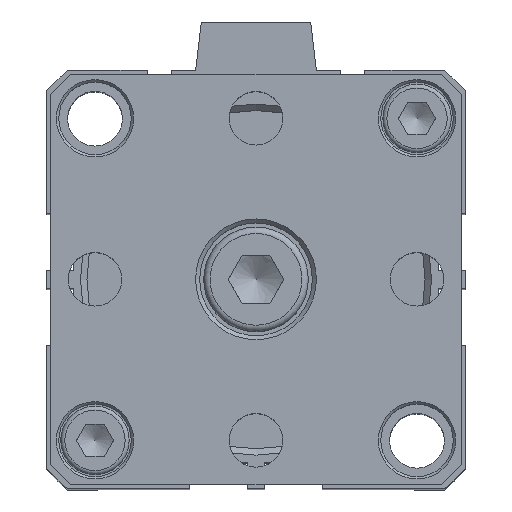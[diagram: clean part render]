
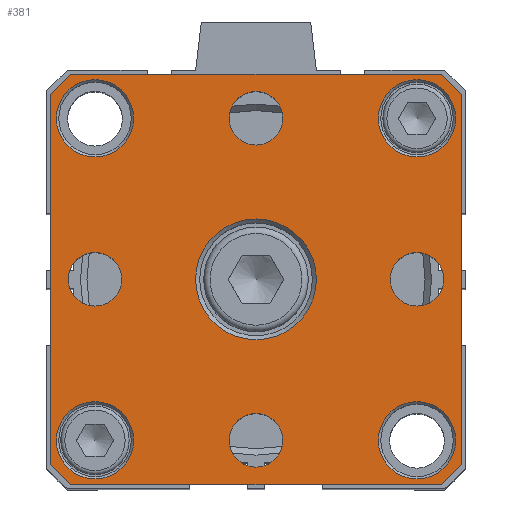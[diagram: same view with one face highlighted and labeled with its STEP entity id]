
A CAD part, top view. The second image highlights one B-rep face of the part: STEP entity #381.
In plain terms, the highlighted planar face has unit normal (0, 0, 1).
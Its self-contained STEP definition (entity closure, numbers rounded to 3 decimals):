
#207=CARTESIAN_POINT('',(25.398,21.555,96.1));
#208=VERTEX_POINT('',#207);
#209=CARTESIAN_POINT('',(20.598,21.555,96.1));
#210=DIRECTION('',(0.0,0.0,1.0));
#211=DIRECTION('',(-1.0,0.0,0.0));
#212=AXIS2_PLACEMENT_3D('',#209,#210,#211);
#213=CIRCLE('',#212,4.8);
#214=EDGE_CURVE('',#208,#208,#213,.T.);
#219=CARTESIAN_POINT('',(0.598,1.555,96.1));
#220=DIRECTION('',(0.0,0.0,1.0));
#221=DIRECTION('',(1.0,0.0,0.0));
#222=AXIS2_PLACEMENT_3D('',#219,#220,#221);
#223=PLANE('',#222);
#224=CARTESIAN_POINT('',(-24.902,24.555,96.1));
#225=VERTEX_POINT('',#224);
#226=CARTESIAN_POINT('',(-22.402,27.055,96.1));
#227=VERTEX_POINT('',#226);
#228=CARTESIAN_POINT('',(-24.902,24.555,96.1));
#229=DIRECTION('',(0.707,0.707,0.0));
#230=VECTOR('',#229,3.536);
#231=LINE('',#228,#230);
#232=EDGE_CURVE('',#225,#227,#231,.T.);
#233=ORIENTED_EDGE('',*,*,#232,.F.);
#234=CARTESIAN_POINT('',(-24.902,-21.445,96.1));
#235=VERTEX_POINT('',#234);
#236=CARTESIAN_POINT('',(-24.902,-21.445,96.1));
#237=DIRECTION('',(0.0,1.0,0.0));
#238=VECTOR('',#237,46.);
#239=LINE('',#236,#238);
#240=EDGE_CURVE('',#235,#225,#239,.T.);
#241=ORIENTED_EDGE('',*,*,#240,.F.);
#242=CARTESIAN_POINT('',(-22.402,-23.945,96.1));
#243=VERTEX_POINT('',#242);
#244=CARTESIAN_POINT('',(-22.402,-23.945,96.1));
#245=DIRECTION('',(-0.707,0.707,0.0));
#246=VECTOR('',#245,3.536);
#247=LINE('',#244,#246);
#248=EDGE_CURVE('',#243,#235,#247,.T.);
#249=ORIENTED_EDGE('',*,*,#248,.F.);
#250=CARTESIAN_POINT('',(23.598,-23.945,96.1));
#251=VERTEX_POINT('',#250);
#252=CARTESIAN_POINT('',(23.598,-23.945,96.1));
#253=DIRECTION('',(-1.0,0.0,0.0));
#254=VECTOR('',#253,46.);
#255=LINE('',#252,#254);
#256=EDGE_CURVE('',#251,#243,#255,.T.);
#257=ORIENTED_EDGE('',*,*,#256,.F.);
#258=CARTESIAN_POINT('',(26.098,-21.445,96.1));
#259=VERTEX_POINT('',#258);
#260=CARTESIAN_POINT('',(26.098,-21.445,96.1));
#261=DIRECTION('',(-0.707,-0.707,0.0));
#262=VECTOR('',#261,3.536);
#263=LINE('',#260,#262);
#264=EDGE_CURVE('',#259,#251,#263,.T.);
#265=ORIENTED_EDGE('',*,*,#264,.F.);
#266=CARTESIAN_POINT('',(26.098,24.555,96.1));
#267=VERTEX_POINT('',#266);
#268=CARTESIAN_POINT('',(26.098,24.555,96.1));
#269=DIRECTION('',(0.0,-1.0,0.0));
#270=VECTOR('',#269,46.);
#271=LINE('',#268,#270);
#272=EDGE_CURVE('',#267,#259,#271,.T.);
#273=ORIENTED_EDGE('',*,*,#272,.F.);
#274=CARTESIAN_POINT('',(23.598,27.055,96.1));
#275=VERTEX_POINT('',#274);
#276=CARTESIAN_POINT('',(23.598,27.055,96.1));
#277=DIRECTION('',(0.707,-0.707,0.0));
#278=VECTOR('',#277,3.536);
#279=LINE('',#276,#278);
#280=EDGE_CURVE('',#275,#267,#279,.T.);
#281=ORIENTED_EDGE('',*,*,#280,.F.);
#282=CARTESIAN_POINT('',(-22.402,27.055,96.1));
#283=DIRECTION('',(1.0,0.0,0.0));
#284=VECTOR('',#283,46.);
#285=LINE('',#282,#284);
#286=EDGE_CURVE('',#227,#275,#285,.T.);
#287=ORIENTED_EDGE('',*,*,#286,.F.);
#288=EDGE_LOOP('',(#233,#241,#249,#257,#265,#273,#281,#287));
#289=FACE_OUTER_BOUND('',#288,.T.);
#290=CARTESIAN_POINT('',(25.398,-18.445,96.1));
#291=VERTEX_POINT('',#290);
#292=CARTESIAN_POINT('',(20.598,-18.445,96.1));
#293=DIRECTION('',(0.0,0.0,1.0));
#294=DIRECTION('',(-1.0,0.0,0.0));
#295=AXIS2_PLACEMENT_3D('',#292,#293,#294);
#296=CIRCLE('',#295,4.8);
#297=EDGE_CURVE('',#291,#291,#296,.T.);
#298=ORIENTED_EDGE('',*,*,#297,.F.);
#299=EDGE_LOOP('',(#298));
#300=FACE_BOUND('',#299,.T.);
#301=CARTESIAN_POINT('',(-14.602,21.555,96.1));
#302=VERTEX_POINT('',#301);
#303=CARTESIAN_POINT('',(-19.402,21.555,96.1));
#304=DIRECTION('',(0.0,0.0,1.0));
#305=DIRECTION('',(-1.0,0.0,0.0));
#306=AXIS2_PLACEMENT_3D('',#303,#304,#305);
#307=CIRCLE('',#306,4.8);
#308=EDGE_CURVE('',#302,#302,#307,.T.);
#309=ORIENTED_EDGE('',*,*,#308,.F.);
#310=EDGE_LOOP('',(#309));
#311=FACE_BOUND('',#310,.T.);
#312=CARTESIAN_POINT('',(3.922,21.555,96.1));
#313=VERTEX_POINT('',#312);
#314=CARTESIAN_POINT('',(0.598,21.555,96.1));
#315=DIRECTION('',(0.0,0.0,-1.0));
#316=DIRECTION('',(1.0,0.0,0.0));
#317=AXIS2_PLACEMENT_3D('',#314,#315,#316);
#318=CIRCLE('',#317,3.324);
#319=EDGE_CURVE('',#313,#313,#318,.T.);
#320=ORIENTED_EDGE('',*,*,#319,.T.);
#321=EDGE_LOOP('',(#320));
#322=FACE_BOUND('',#321,.T.);
#323=CARTESIAN_POINT('',(-16.078,1.555,96.1));
#324=VERTEX_POINT('',#323);
#325=CARTESIAN_POINT('',(-19.402,1.555,96.1));
#326=DIRECTION('',(0.0,0.0,-1.0));
#327=DIRECTION('',(1.0,0.0,0.0));
#328=AXIS2_PLACEMENT_3D('',#325,#326,#327);
#329=CIRCLE('',#328,3.324);
#330=EDGE_CURVE('',#324,#324,#329,.T.);
#331=ORIENTED_EDGE('',*,*,#330,.T.);
#332=EDGE_LOOP('',(#331));
#333=FACE_BOUND('',#332,.T.);
#334=CARTESIAN_POINT('',(3.922,-18.445,96.1));
#335=VERTEX_POINT('',#334);
#336=CARTESIAN_POINT('',(0.598,-18.445,96.1));
#337=DIRECTION('',(0.0,0.0,-1.0));
#338=DIRECTION('',(1.0,0.0,0.0));
#339=AXIS2_PLACEMENT_3D('',#336,#337,#338);
#340=CIRCLE('',#339,3.324);
#341=EDGE_CURVE('',#335,#335,#340,.T.);
#342=ORIENTED_EDGE('',*,*,#341,.T.);
#343=EDGE_LOOP('',(#342));
#344=FACE_BOUND('',#343,.T.);
#345=CARTESIAN_POINT('',(23.922,1.555,96.1));
#346=VERTEX_POINT('',#345);
#347=CARTESIAN_POINT('',(20.598,1.555,96.1));
#348=DIRECTION('',(0.0,0.0,-1.0));
#349=DIRECTION('',(1.0,0.0,0.0));
#350=AXIS2_PLACEMENT_3D('',#347,#348,#349);
#351=CIRCLE('',#350,3.324);
#352=EDGE_CURVE('',#346,#346,#351,.T.);
#353=ORIENTED_EDGE('',*,*,#352,.T.);
#354=EDGE_LOOP('',(#353));
#355=FACE_BOUND('',#354,.T.);
#356=CARTESIAN_POINT('',(8.098,1.555,96.1));
#357=VERTEX_POINT('',#356);
#358=CARTESIAN_POINT('',(0.598,1.555,96.1));
#359=DIRECTION('',(0.0,0.0,1.0));
#360=DIRECTION('',(-1.0,0.0,0.0));
#361=AXIS2_PLACEMENT_3D('',#358,#359,#360);
#362=CIRCLE('',#361,7.5);
#363=EDGE_CURVE('',#357,#357,#362,.T.);
#364=ORIENTED_EDGE('',*,*,#363,.F.);
#365=EDGE_LOOP('',(#364));
#366=FACE_BOUND('',#365,.T.);
#367=CARTESIAN_POINT('',(-14.602,-18.445,96.1));
#368=VERTEX_POINT('',#367);
#369=CARTESIAN_POINT('',(-19.402,-18.445,96.1));
#370=DIRECTION('',(0.0,0.0,1.0));
#371=DIRECTION('',(-1.0,0.0,0.0));
#372=AXIS2_PLACEMENT_3D('',#369,#370,#371);
#373=CIRCLE('',#372,4.8);
#374=EDGE_CURVE('',#368,#368,#373,.T.);
#375=ORIENTED_EDGE('',*,*,#374,.F.);
#376=EDGE_LOOP('',(#375));
#377=FACE_BOUND('',#376,.T.);
#378=ORIENTED_EDGE('',*,*,#214,.F.);
#379=EDGE_LOOP('',(#378));
#380=FACE_BOUND('',#379,.T.);
#381=ADVANCED_FACE('',(#289,#300,#311,#322,#333,#344,#355,#366,#377,#380),#223,.T.);
